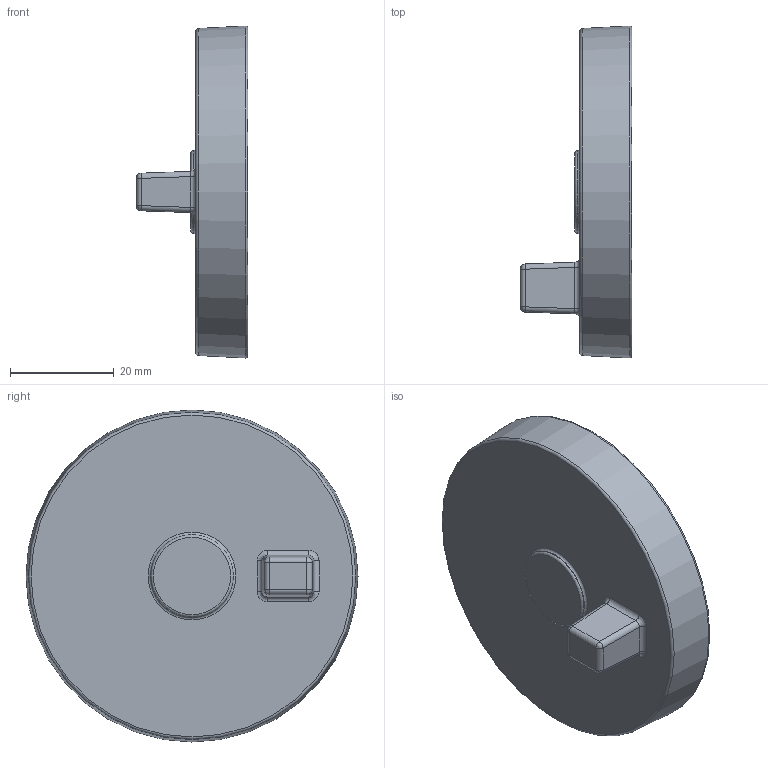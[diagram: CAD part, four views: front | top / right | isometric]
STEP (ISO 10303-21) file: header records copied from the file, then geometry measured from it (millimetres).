
FILE_DESCRIPTION(('STEP AP242'), '1');
FILE_NAME('Êðûøêà', '', ('UNSPECIFIED'), ('UNSPECIFIED'), 'C3D Converter', 'C3D Toolkit', '');
FILE_SCHEMA(('AP242_MANAGED_MODEL_BASED_3D_ENGINEERING_MIM_LF { 1 0 10303 442 1 1 4 }'));
Length unit declared in the file: millimetre
Bounding box: 21.5 x 63.94 x 63.94 mm (x, y, z)
Volume: 15006.6 mm3; surface area: 9790.1 mm2
Topology: 1 solids, 1 shells, 46 faces, 91 edges, 48 vertices
Faces by surface type: cylinder 12, plane 11, torus 10, bspline 8, cone 5
Entity records: 1344 total; most frequent: CARTESIAN_POINT 471, DIRECTION 182, ORIENTED_EDGE 144, AXIS2_PLACEMENT_3D 79, EDGE_CURVE 72, EDGE_LOOP 66, VERTEX_POINT 48, ADVANCED_FACE 46
